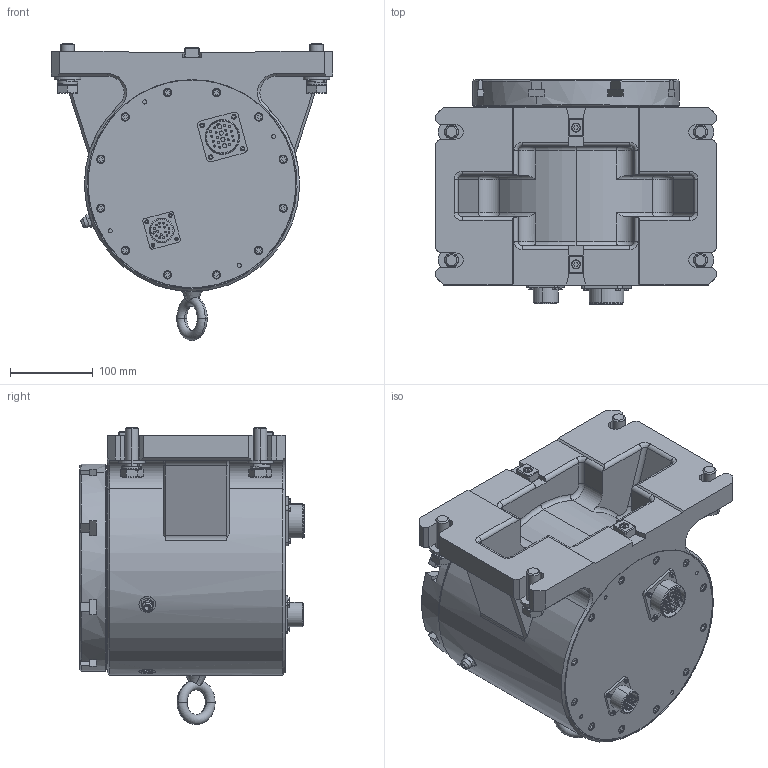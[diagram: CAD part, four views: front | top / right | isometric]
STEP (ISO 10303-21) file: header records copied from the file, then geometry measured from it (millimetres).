
FILE_DESCRIPTION (( 'STEP AP214' ), '1' );
FILE_NAME ('KCR-250FUDF 軞蚾饜芞.STEP', '2021-11-22T06:51:02', ( '' ), ( '' ), 'SwSTEP 2.0', 'SolidWorks 2020', '' );
FILE_SCHEMA (( 'AUTOMOTIVE_DESIGN' ));
Length unit declared in the file: millimetre
Products named in the file (1): KCR-250FUDF 軞蚾饜芞
Bounding box: 340 x 271.05 x 359 mm (x, y, z)
Volume: 7142686.1 mm3; surface area: 1118891.5 mm2
Topology: 79 solids, 79 shells, 2442 faces, 5616 edges, 3485 vertices
Faces by surface type: plane 938, cylinder 846, cone 367, torus 262, bspline 29
Entity records: 100135 total; most frequent: CARTESIAN_POINT 16273, DIRECTION 12640, ORIENTED_EDGE 11096, EDGE_CURVE 5548, AXIS2_PLACEMENT_3D 4988, VERTEX_POINT 3485, EDGE_LOOP 2845, LINE 2664
